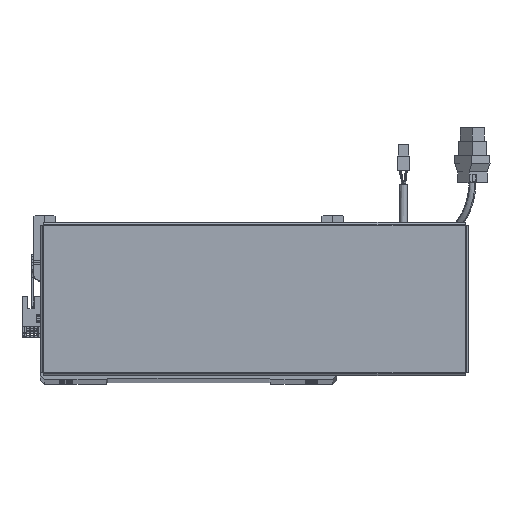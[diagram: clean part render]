
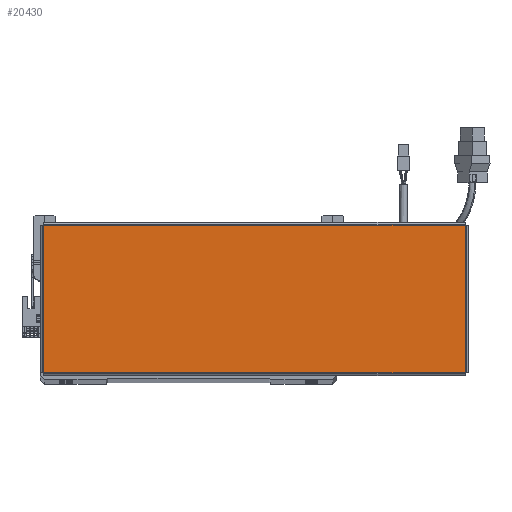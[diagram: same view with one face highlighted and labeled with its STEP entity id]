
A CAD part, top view. The second image highlights one B-rep face of the part: STEP entity #20430.
In plain terms, the highlighted planar face has unit normal (0, 0, 1).
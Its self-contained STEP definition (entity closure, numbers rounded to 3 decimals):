
#4805 = CARTESIAN_POINT ( 'NONE',  ( -156.513, 54.763, 0. ) ) ;
#4817 = CARTESIAN_POINT ( 'NONE',  ( -156.543, -54.763, 0. ) ) ;
#5185 = CARTESIAN_POINT ( 'NONE',  ( 156.513, 54.763, 0. ) ) ;
#6325 = ORIENTED_EDGE ( 'NONE', *, *, #35351, .T. ) ;
#8601 = LINE ( 'NONE', #4817, #37849 ) ;
#8729 = FACE_OUTER_BOUND ( 'NONE', #31513, .T. ) ;
#9182 = VECTOR ( 'NONE', #45319, 1000. ) ;
#9660 = EDGE_CURVE ( 'NONE', #19943, #28177, #42570, .T. ) ;
#9677 = VECTOR ( 'NONE', #14974, 1000. ) ;
#11730 = VERTEX_POINT ( 'NONE', #5185 ) ;
#13756 = ORIENTED_EDGE ( 'NONE', *, *, #67876, .T. ) ;
#14974 = DIRECTION ( 'NONE',  ( 0., -1., 0. ) ) ;
#16246 = DIRECTION ( 'NONE',  ( 1., 0., 0. ) ) ;
#17603 = CARTESIAN_POINT ( 'NONE',  ( 156.513, -54.793, 0. ) ) ;
#19943 = VERTEX_POINT ( 'NONE', #4805 ) ;
#20430 = ADVANCED_FACE ( 'NONE', ( #8729 ), #74655, .T. ) ;
#20442 = ORIENTED_EDGE ( 'NONE', *, *, #28218, .T. ) ;
#28177 = VERTEX_POINT ( 'NONE', #38248 ) ;
#28218 = EDGE_CURVE ( 'NONE', #11730, #19943, #67603, .T. ) ;
#28535 = DIRECTION ( 'NONE',  ( 0., 0., 1. ) ) ;
#31513 = EDGE_LOOP ( 'NONE', ( #6325, #13756, #20442, #35468 ) ) ;
#35351 = EDGE_CURVE ( 'NONE', #28177, #45631, #8601, .T. ) ;
#35468 = ORIENTED_EDGE ( 'NONE', *, *, #9660, .T. ) ;
#36168 = CARTESIAN_POINT ( 'NONE',  ( 156.513, -54.763, 0. ) ) ;
#37036 = VECTOR ( 'NONE', #58632, 1000. ) ;
#37849 = VECTOR ( 'NONE', #75261, 1000. ) ;
#38248 = CARTESIAN_POINT ( 'NONE',  ( -156.513, -54.763, 0. ) ) ;
#42570 = LINE ( 'NONE', #66522, #9677 ) ;
#45319 = DIRECTION ( 'NONE',  ( -1., 0., 0. ) ) ;
#45560 = CARTESIAN_POINT ( 'NONE',  ( 0., 0., 0. ) ) ;
#45631 = VERTEX_POINT ( 'NONE', #36168 ) ;
#50425 = CARTESIAN_POINT ( 'NONE',  ( 156.543, 54.763, 0. ) ) ;
#58632 = DIRECTION ( 'NONE',  ( 0., 1., 0. ) ) ;
#66522 = CARTESIAN_POINT ( 'NONE',  ( -156.513, 54.793, 0. ) ) ;
#67207 = AXIS2_PLACEMENT_3D ( 'NONE', #45560, #28535, #16246 ) ;
#67603 = LINE ( 'NONE', #50425, #9182 ) ;
#67876 = EDGE_CURVE ( 'NONE', #45631, #11730, #69850, .T. ) ;
#69850 = LINE ( 'NONE', #17603, #37036 ) ;
#74655 = PLANE ( 'NONE',  #67207 ) ;
#75261 = DIRECTION ( 'NONE',  ( 1., 0., 0. ) ) ;
